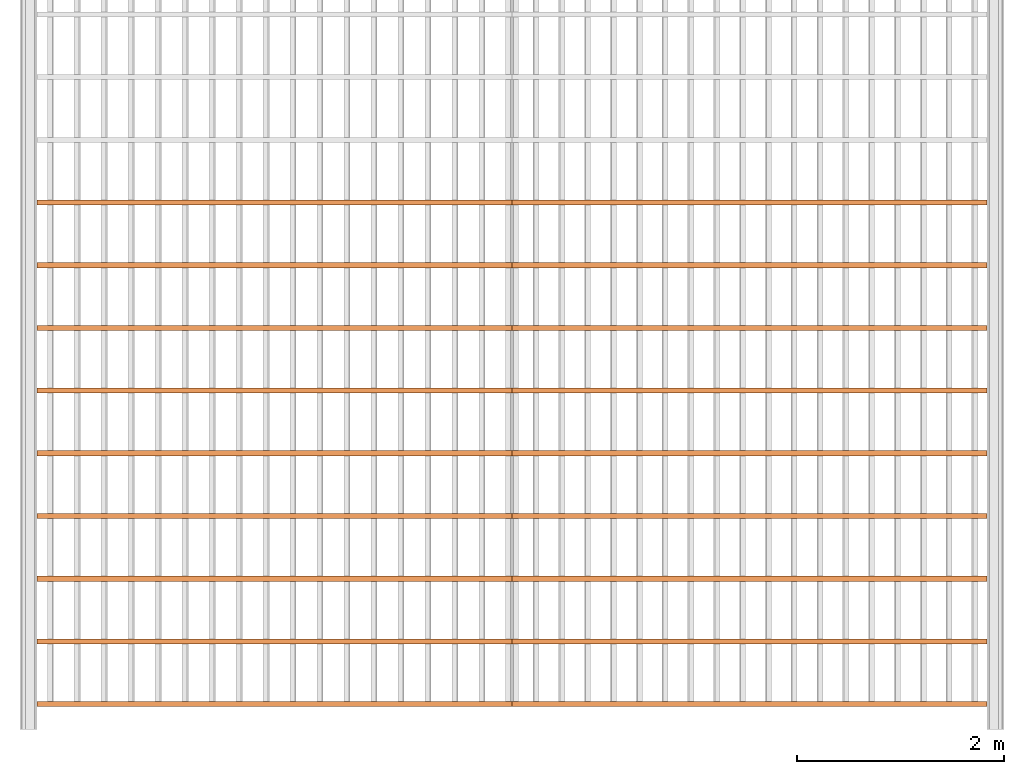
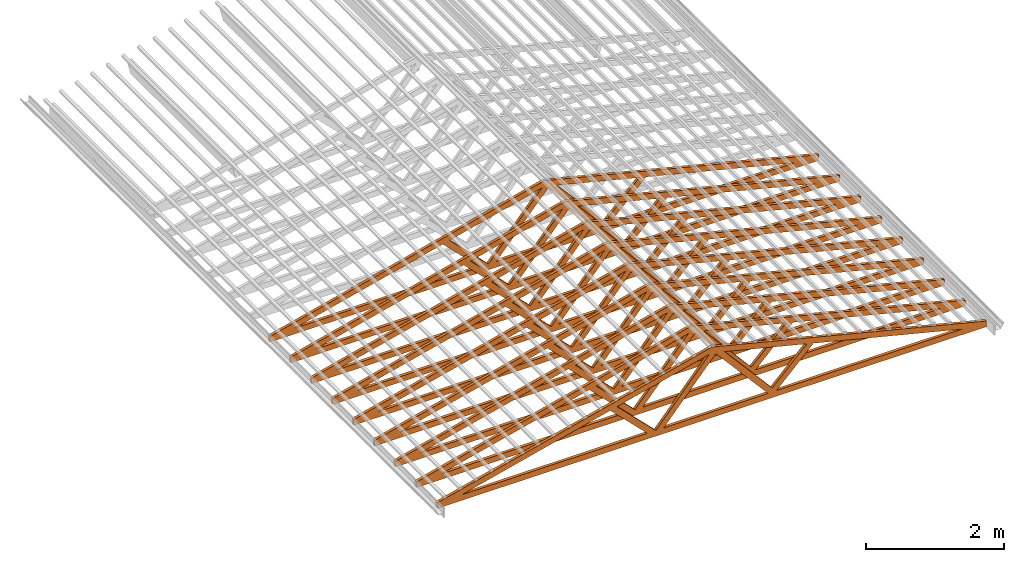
# One storey, part 2 of 4: 9 proxies.
"""IFC2X3 building model written with IfcOpenShell, lengths in metres."""

from ifc_helpers import new_model, entity, si_unit, converted_unit, derived_unit, direction, frame, origin, place, context, subcontext, project, spatial, polyline, outline, extrude, source, transform, mapped, material, type_object, type_shapes, element, save


model = new_model("IFC2X3")

# Units and contexts
model_context = context("Model", 3, precision=1e-05, world=origin(), true_north=direction((6.123031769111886e-17, 1.0)))
body_context = subcontext(model_context, "Body", "Model", "MODEL_VIEW")
ifc_project = project(units=[si_unit("LENGTHUNIT", "METRE"), si_unit("AREAUNIT", "SQUARE_METRE"), si_unit("VOLUMEUNIT", "CUBIC_METRE"), converted_unit("PLANEANGLEUNIT", "DEGREE", entity("IfcRatioMeasure", 0.017453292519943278), si_unit("PLANEANGLEUNIT", "RADIAN"), dimensions=[0, 0, 0, 0, 0, 0, 0]), si_unit("MASSUNIT", "GRAM", prefix="KILO"), derived_unit("MASSDENSITYUNIT", [(si_unit("MASSUNIT", "GRAM", prefix="KILO"), 1), (si_unit("LENGTHUNIT", "METRE"), -3)]), derived_unit("IONCONCENTRATIONUNIT", [(si_unit("MASSUNIT", "GRAM", prefix="KILO"), 1), (si_unit("LENGTHUNIT", "METRE"), -3)]), derived_unit("MOMENTOFINERTIAUNIT", [(si_unit("LENGTHUNIT", "METRE"), 4)]), si_unit("TIMEUNIT", "SECOND"), si_unit("FREQUENCYUNIT", "HERTZ"), si_unit("THERMODYNAMICTEMPERATUREUNIT", "DEGREE_CELSIUS"), derived_unit("THERMALTRANSMITTANCEUNIT", [(si_unit("MASSUNIT", "GRAM", prefix="KILO"), 1), (si_unit("THERMODYNAMICTEMPERATUREUNIT", "KELVIN"), -1), (si_unit("TIMEUNIT", "SECOND"), -3)]), derived_unit("THERMALCONDUCTANCEUNIT", [(si_unit("MASSUNIT", "GRAM", prefix="KILO"), 1), (si_unit("THERMODYNAMICTEMPERATUREUNIT", "KELVIN"), -1), (si_unit("TIMEUNIT", "SECOND"), -3), (si_unit("LENGTHUNIT", "METRE"), 1)]), derived_unit("VOLUMETRICFLOWRATEUNIT", [(si_unit("LENGTHUNIT", "METRE"), 3), (si_unit("TIMEUNIT", "SECOND"), -1)]), derived_unit("MASSFLOWRATEUNIT", [(si_unit("MASSUNIT", "GRAM", prefix="KILO"), 1), (si_unit("TIMEUNIT", "SECOND"), -1)]), derived_unit("ROTATIONALFREQUENCYUNIT", [(si_unit("TIMEUNIT", "SECOND"), -1)]), si_unit("ELECTRICCURRENTUNIT", "AMPERE"), si_unit("ELECTRICVOLTAGEUNIT", "VOLT"), si_unit("POWERUNIT", "WATT"), si_unit("FORCEUNIT", "NEWTON", prefix="KILO"), si_unit("ILLUMINANCEUNIT", "LUX"), si_unit("LUMINOUSFLUXUNIT", "LUMEN"), si_unit("LUMINOUSINTENSITYUNIT", "CANDELA"), derived_unit("USERDEFINED", [(si_unit("MASSUNIT", "GRAM", prefix="KILO"), -1), (si_unit("LENGTHUNIT", "METRE"), -2), (si_unit("TIMEUNIT", "SECOND"), 3), (si_unit("LUMINOUSFLUXUNIT", "LUMEN"), 1)]), derived_unit("USERDEFINED", [(si_unit("MASSUNIT", "GRAM", prefix="KILO"), 1), (si_unit("TIMEUNIT", "SECOND"), -3), (si_unit("LENGTHUNIT", "METRE"), 3), (si_unit("ELECTRICCURRENTUNIT", "AMPERE"), -2)]), derived_unit("SOUNDPOWERUNIT", [(si_unit("MASSUNIT", "GRAM", prefix="KILO"), 1), (si_unit("TIMEUNIT", "SECOND"), -3), (si_unit("LENGTHUNIT", "METRE"), 2)]), derived_unit("SOUNDPRESSUREUNIT", [(si_unit("MASSUNIT", "GRAM", prefix="KILO"), 1), (si_unit("LENGTHUNIT", "METRE"), -1), (si_unit("TIMEUNIT", "SECOND"), -2)]), derived_unit("LINEARVELOCITYUNIT", [(si_unit("LENGTHUNIT", "METRE"), 1), (si_unit("TIMEUNIT", "SECOND"), -1)]), si_unit("PRESSUREUNIT", "PASCAL"), derived_unit("USERDEFINED", [(si_unit("MASSUNIT", "GRAM", prefix="KILO"), 1), (si_unit("LENGTHUNIT", "METRE"), -2), (si_unit("TIMEUNIT", "SECOND"), -2)]), derived_unit("LINEARFORCEUNIT", [(si_unit("MASSUNIT", "GRAM", prefix="KILO"), 1), (si_unit("TIMEUNIT", "SECOND"), -2)]), derived_unit("PLANARFORCEUNIT", [(si_unit("MASSUNIT", "GRAM", prefix="KILO"), 1), (si_unit("LENGTHUNIT", "METRE"), -1), (si_unit("TIMEUNIT", "SECOND"), -2)]), derived_unit("SPECIFICHEATCAPACITYUNIT", [(si_unit("THERMODYNAMICTEMPERATUREUNIT", "KELVIN"), -1), (si_unit("LENGTHUNIT", "METRE"), 2), (si_unit("TIMEUNIT", "SECOND"), -2)]), derived_unit("HEATINGVALUEUNIT", [(si_unit("LENGTHUNIT", "METRE"), 2), (si_unit("TIMEUNIT", "SECOND"), -2)]), derived_unit("VAPORPERMEABILITYUNIT", [(si_unit("LENGTHUNIT", "METRE"), -1), (si_unit("TIMEUNIT", "SECOND"), 1)]), derived_unit("DYNAMICVISCOSITYUNIT", [(si_unit("MASSUNIT", "GRAM", prefix="KILO"), 1), (si_unit("TIMEUNIT", "SECOND"), -1), (si_unit("LENGTHUNIT", "METRE"), -1)]), derived_unit("THERMALEXPANSIONCOEFFICIENTUNIT", [(si_unit("THERMODYNAMICTEMPERATUREUNIT", "KELVIN"), -1)]), derived_unit("MODULUSOFELASTICITYUNIT", [(si_unit("MASSUNIT", "GRAM", prefix="KILO"), 1), (si_unit("LENGTHUNIT", "METRE"), -1), (si_unit("TIMEUNIT", "SECOND"), -2)]), derived_unit("ISOTHERMALMOISTURECAPACITYUNIT", [(si_unit("LENGTHUNIT", "METRE"), 3), (si_unit("MASSUNIT", "GRAM", prefix="KILO"), -1)]), derived_unit("MOISTUREDIFFUSIVITYUNIT", [(si_unit("TIMEUNIT", "SECOND"), -1), (si_unit("LENGTHUNIT", "METRE"), 2)])], contexts=[model_context])

# Site, building, storey
site_placement = place(None, frame((1.2553507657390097, -0.6266432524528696, -1.0397761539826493), z_axis=(0.0, 0.0, 1.0), x_axis=(-1.0, 0.0, 0.0)))
site = spatial("IfcSite", under=ifc_project, at=site_placement, Name="Default", CompositionType="ELEMENT")
building_placement = place(site_placement, origin())
building = spatial("IfcBuilding", under=site, at=building_placement, Name="MAISON D'HABITATION", CompositionType="ELEMENT")
storey_placement = place(building_placement, frame((0.0, 0.0, 3.569776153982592)))
storey = spatial("IfcBuildingStorey", under=building, at=storey_placement, Name="Niveau .....", CompositionType="ELEMENT", Elevation=3.569776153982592)

# Proxies
ifc_material = material(Name="<Unnamed>")
building_element_proxy_type_1 = type_object("IfcBuildingElementProxyType", Name="Ossature 15:Ossature 1", PredefinedType="NOTDEFINED", material=ifc_material)
shared_shape_1 = source(origin(), body_context, "Body", "SweptSolid", [
    extrude(outline(polyline([(-0.2900640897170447, -4.599999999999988), (-0.1900640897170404, -4.599999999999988), (0.960256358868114, 0.0), (-0.19006408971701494, 4.600000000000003), (-0.290064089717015, 4.600000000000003), (-0.2900640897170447, -4.599999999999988)]), holes=[polyline([(0.4313496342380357, -1.7028350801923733), (-0.1900640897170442, -4.187797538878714), (-0.19006408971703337, -1.0814213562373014), (0.4313496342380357, -1.7028350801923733)]), polyline([(-0.19006408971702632, 1.0814213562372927), (-0.19006408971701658, 4.187797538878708), (0.43134963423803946, 1.702835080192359), (-0.19006408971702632, 1.0814213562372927)]), polyline([(-0.19006408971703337, -0.9399999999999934), (-0.1900640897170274, 0.8076775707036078), (0.8183380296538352, -0.0661612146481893), (-0.19006408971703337, -0.9399999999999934)]), polyline([(-0.19006408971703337, 0.9399999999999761), (0.4596402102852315, 1.589704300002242), (0.846799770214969, 0.04149746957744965), (-0.19006408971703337, 0.9399999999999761)]), polyline([(0.4596402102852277, -1.5897043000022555), (-0.11917294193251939, -1.0108911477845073), (0.804555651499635, -0.21042687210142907), (0.4596402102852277, -1.5897043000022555)])]), frame((-0.2798669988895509, -2.813816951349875, 3.969840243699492), z_axis=(0.0, 1.0, 0.0), x_axis=(0.0, 0.0, 1.0)), (0.0, 0.0, 1.0), 0.04999999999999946),
])
type_shapes(building_element_proxy_type_1, [shared_shape_1])
proxy_1_placement = place(storey_placement, frame((0.0, 5.899999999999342, -3.569776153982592)))
element("IfcBuildingElementProxy", 1, at=proxy_1_placement, inside=storey, type_object=building_element_proxy_type_1, material=ifc_material, Name="Ossature 15:Ossature 1", ObjectType="Ossature 15:Ossature 1", context=body_context, shape_type="MappedRepresentation", body=[
    mapped(shared_shape_1, transform((0.0, 0.0, 0.0), scale=1.0)),
])
building_element_proxy_type_2 = type_object("IfcBuildingElementProxyType", Name="Ossature 2:Ossature 1", PredefinedType="NOTDEFINED", material=ifc_material)
shared_shape_2 = source(origin(), body_context, "Body", "SweptSolid", [
    extrude(outline(polyline([(-0.29006408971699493, -4.599999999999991), (-0.19006408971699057, -4.599999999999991), (0.960256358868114, 0.0), (-0.19006408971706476, 4.600000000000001), (-0.29006408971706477, 4.600000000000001), (-0.29006408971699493, -4.599999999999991)]), holes=[polyline([(0.4313496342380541, -1.7028350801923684), (-0.19006408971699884, -4.187797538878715), (-0.19006408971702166, -1.0814213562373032), (0.4313496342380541, -1.7028350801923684)]), polyline([(-0.19006408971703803, 1.0814213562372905), (-0.19006408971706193, 4.187797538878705), (0.4313496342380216, 1.7028350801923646), (-0.19006408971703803, 1.0814213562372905)]), polyline([(-0.19006408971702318, -0.9399999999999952), (-0.19006408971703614, 0.8076775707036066), (0.8183380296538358, -0.06616121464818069), (-0.19006408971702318, -0.9399999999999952)]), polyline([(-0.19006408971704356, 0.9399999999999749), (0.4596402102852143, 1.5897043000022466), (0.8467997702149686, 0.041497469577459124), (-0.19006408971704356, 0.9399999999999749)]), polyline([(0.4596402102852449, -1.5897043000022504), (-0.11917294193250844, -1.0108911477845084), (0.8045556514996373, -0.21042687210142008), (0.4596402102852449, -1.5897043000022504)])]), frame((-0.2798669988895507, -3.420959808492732, 3.969840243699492), z_axis=(0.0, 1.0, 0.0), x_axis=(0.0, 0.0, 1.0)), (0.0, 0.0, 1.0), 0.04999999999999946),
])
type_shapes(building_element_proxy_type_2, [shared_shape_2])
proxy_2_placement = place(storey_placement, frame((0.0, 5.899999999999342, -3.569776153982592)))
element("IfcBuildingElementProxy", 2, at=proxy_2_placement, inside=storey, type_object=building_element_proxy_type_2, material=ifc_material, Name="Ossature 2:Ossature 1", ObjectType="Ossature 2:Ossature 1", context=body_context, shape_type="MappedRepresentation", body=[
    mapped(shared_shape_2, transform((0.0, 0.0, 0.0), scale=1.0)),
])
building_element_proxy_type_3 = type_object("IfcBuildingElementProxyType", Name="Ossature 3:Ossature 1", PredefinedType="NOTDEFINED", material=ifc_material)
shared_shape_3 = source(origin(), body_context, "Body", "SweptSolid", [
    extrude(outline(polyline([(-0.29006408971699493, -4.599999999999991), (-0.19006408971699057, -4.599999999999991), (0.960256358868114, 0.0), (-0.19006408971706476, 4.600000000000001), (-0.29006408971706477, 4.600000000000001), (-0.29006408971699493, -4.599999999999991)]), holes=[polyline([(0.4313496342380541, -1.7028350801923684), (-0.19006408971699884, -4.187797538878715), (-0.19006408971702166, -1.0814213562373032), (0.4313496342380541, -1.7028350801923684)]), polyline([(-0.19006408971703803, 1.0814213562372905), (-0.19006408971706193, 4.187797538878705), (0.4313496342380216, 1.7028350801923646), (-0.19006408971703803, 1.0814213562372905)]), polyline([(-0.19006408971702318, -0.9399999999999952), (-0.19006408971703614, 0.8076775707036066), (0.8183380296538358, -0.06616121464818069), (-0.19006408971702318, -0.9399999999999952)]), polyline([(-0.19006408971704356, 0.9399999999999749), (0.4596402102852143, 1.5897043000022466), (0.8467997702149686, 0.041497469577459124), (-0.19006408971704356, 0.9399999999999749)]), polyline([(0.4596402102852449, -1.5897043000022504), (-0.11917294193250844, -1.0108911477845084), (0.8045556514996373, -0.21042687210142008), (0.4596402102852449, -1.5897043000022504)])]), frame((-0.2798669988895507, -4.028102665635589, 3.969840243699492), z_axis=(0.0, 1.0, 0.0), x_axis=(0.0, 0.0, 1.0)), (0.0, 0.0, 1.0), 0.04999999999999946),
])
type_shapes(building_element_proxy_type_3, [shared_shape_3])
proxy_3_placement = place(storey_placement, frame((0.0, 5.899999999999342, -3.569776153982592)))
element("IfcBuildingElementProxy", 3, at=proxy_3_placement, inside=storey, type_object=building_element_proxy_type_3, material=ifc_material, Name="Ossature 3:Ossature 1", ObjectType="Ossature 3:Ossature 1", context=body_context, shape_type="MappedRepresentation", body=[
    mapped(shared_shape_3, transform((0.0, 0.0, 0.0), scale=1.0)),
])
building_element_proxy_type_4 = type_object("IfcBuildingElementProxyType", Name="Ossature 5:Ossature 1", PredefinedType="NOTDEFINED", material=ifc_material)
shared_shape_4 = source(origin(), body_context, "Body", "SweptSolid", [
    extrude(outline(polyline([(-0.19457787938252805, -4.599999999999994), (-0.09457787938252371, -4.599999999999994), (-0.029559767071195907, -4.340000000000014), (-0.014577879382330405, -4.280089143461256), (1.0557425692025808, 0.0), (-0.014577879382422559, 4.280089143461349), (-0.029559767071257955, 4.339999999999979), (-0.09457787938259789, 4.599999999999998), (-0.19457787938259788, 4.599999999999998), (-0.19457787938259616, 4.3399999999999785), (-0.19457787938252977, -4.340000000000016), (-0.19457787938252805, -4.599999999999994)]), holes=[polyline([(0.5551264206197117, -1.5897043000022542), (-0.014577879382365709, -1.0200000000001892), (-0.023686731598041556, -1.0108911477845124), (-0.014577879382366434, -1.0029978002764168), (0.9000418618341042, -0.21042687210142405), (0.5551264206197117, -1.5897043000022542)]), polyline([(0.526835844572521, -1.7028350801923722), (-0.014577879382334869, -3.867886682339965), (-0.09457787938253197, -4.187797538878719), (-0.09457787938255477, -1.0814213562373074), (-0.014577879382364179, -1.161421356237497), (0.526835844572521, -1.7028350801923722)]), polyline([(-0.09457787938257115, 1.0814213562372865), (-0.09457787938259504, 4.187797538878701), (-0.014577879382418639, 3.8678866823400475), (0.5268358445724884, 1.7028350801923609), (-0.01457787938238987, 1.1614213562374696), (-0.09457787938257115, 1.0814213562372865)]), polyline([(-0.0945778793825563, -0.9399999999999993), (-0.09457787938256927, 0.8076775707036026), (-0.014577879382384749, 0.7383529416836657), (0.9138242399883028, -0.06616121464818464), (-0.014577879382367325, -0.8706753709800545), (-0.0945778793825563, -0.9399999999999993)]), polyline([(-0.09457787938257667, 0.9399999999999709), (-0.014577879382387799, 1.0200000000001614), (0.5551264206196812, 1.5897043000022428), (0.9422859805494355, 0.041497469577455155), (-0.01457787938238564, 0.8706753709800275), (-0.09457787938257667, 0.9399999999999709)])]), frame((-0.2798669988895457, -4.635245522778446, 3.8743540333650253), z_axis=(0.0, 1.0, 0.0), x_axis=(0.0, 0.0, 1.0)), (0.0, 0.0, 1.0), 0.04999999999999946),
])
type_shapes(building_element_proxy_type_4, [shared_shape_4])
proxy_4_placement = place(storey_placement, frame((0.0, 5.899999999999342, -3.569776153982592)))
element("IfcBuildingElementProxy", 4, at=proxy_4_placement, inside=storey, type_object=building_element_proxy_type_4, material=ifc_material, Name="Ossature 5:Ossature 1", ObjectType="Ossature 5:Ossature 1", context=body_context, shape_type="MappedRepresentation", body=[
    mapped(shared_shape_4, transform((0.0, 0.0, 0.0), scale=1.0)),
])
building_element_proxy_type_5 = type_object("IfcBuildingElementProxyType", Name="Ossature 6:Ossature 1", PredefinedType="NOTDEFINED", material=ifc_material)
shared_shape_5 = source(origin(), body_context, "Body", "SweptSolid", [
    extrude(outline(polyline([(-0.29006408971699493, -4.599999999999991), (-0.19006408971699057, -4.599999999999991), (0.960256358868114, 0.0), (-0.19006408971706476, 4.600000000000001), (-0.29006408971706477, 4.600000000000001), (-0.29006408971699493, -4.599999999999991)]), holes=[polyline([(0.4313496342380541, -1.7028350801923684), (-0.19006408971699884, -4.187797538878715), (-0.19006408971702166, -1.0814213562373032), (0.4313496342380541, -1.7028350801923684)]), polyline([(-0.19006408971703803, 1.0814213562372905), (-0.19006408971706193, 4.187797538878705), (0.4313496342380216, 1.7028350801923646), (-0.19006408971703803, 1.0814213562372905)]), polyline([(-0.19006408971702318, -0.9399999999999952), (-0.19006408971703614, 0.8076775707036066), (0.8183380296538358, -0.06616121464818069), (-0.19006408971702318, -0.9399999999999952)]), polyline([(-0.19006408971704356, 0.9399999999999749), (0.4596402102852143, 1.5897043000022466), (0.8467997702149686, 0.041497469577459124), (-0.19006408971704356, 0.9399999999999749)]), polyline([(0.4596402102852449, -1.5897043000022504), (-0.11917294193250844, -1.0108911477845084), (0.8045556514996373, -0.21042687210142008), (0.4596402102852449, -1.5897043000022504)])]), frame((-0.2798669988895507, -5.242388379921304, 3.969840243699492), z_axis=(0.0, 1.0, 0.0), x_axis=(0.0, 0.0, 1.0)), (0.0, 0.0, 1.0), 0.04999999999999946),
])
type_shapes(building_element_proxy_type_5, [shared_shape_5])
proxy_5_placement = place(storey_placement, frame((0.0, 5.899999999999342, -3.569776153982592)))
element("IfcBuildingElementProxy", 5, at=proxy_5_placement, inside=storey, type_object=building_element_proxy_type_5, material=ifc_material, Name="Ossature 6:Ossature 1", ObjectType="Ossature 6:Ossature 1", context=body_context, shape_type="MappedRepresentation", body=[
    mapped(shared_shape_5, transform((0.0, 0.0, 0.0), scale=1.0)),
])
building_element_proxy_type_6 = type_object("IfcBuildingElementProxyType", Name="Ossature 7:Ossature 1", PredefinedType="NOTDEFINED", material=ifc_material)
shared_shape_6 = source(origin(), body_context, "Body", "SweptSolid", [
    extrude(outline(polyline([(-0.29006408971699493, -4.599999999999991), (-0.19006408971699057, -4.599999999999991), (0.960256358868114, 0.0), (-0.19006408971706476, 4.600000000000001), (-0.29006408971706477, 4.600000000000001), (-0.29006408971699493, -4.599999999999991)]), holes=[polyline([(0.4313496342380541, -1.7028350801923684), (-0.19006408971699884, -4.187797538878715), (-0.19006408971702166, -1.0814213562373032), (0.4313496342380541, -1.7028350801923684)]), polyline([(-0.19006408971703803, 1.0814213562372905), (-0.19006408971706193, 4.187797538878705), (0.4313496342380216, 1.7028350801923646), (-0.19006408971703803, 1.0814213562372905)]), polyline([(-0.19006408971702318, -0.9399999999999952), (-0.19006408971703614, 0.8076775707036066), (0.8183380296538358, -0.06616121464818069), (-0.19006408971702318, -0.9399999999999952)]), polyline([(-0.19006408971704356, 0.9399999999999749), (0.4596402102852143, 1.5897043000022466), (0.8467997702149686, 0.041497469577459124), (-0.19006408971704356, 0.9399999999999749)]), polyline([(0.4596402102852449, -1.5897043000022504), (-0.11917294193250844, -1.0108911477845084), (0.8045556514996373, -0.21042687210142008), (0.4596402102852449, -1.5897043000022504)])]), frame((-0.2798669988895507, -5.849531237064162, 3.969840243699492), z_axis=(0.0, 1.0, 0.0), x_axis=(0.0, 0.0, 1.0)), (0.0, 0.0, 1.0), 0.04999999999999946),
])
type_shapes(building_element_proxy_type_6, [shared_shape_6])
proxy_6_placement = place(storey_placement, frame((0.0, 5.899999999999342, -3.569776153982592)))
element("IfcBuildingElementProxy", 6, at=proxy_6_placement, inside=storey, type_object=building_element_proxy_type_6, material=ifc_material, Name="Ossature 7:Ossature 1", ObjectType="Ossature 7:Ossature 1", context=body_context, shape_type="MappedRepresentation", body=[
    mapped(shared_shape_6, transform((0.0, 0.0, 0.0), scale=1.0)),
])
building_element_proxy_type_7 = type_object("IfcBuildingElementProxyType", Name="Ossature 8:Ossature 1", PredefinedType="NOTDEFINED", material=ifc_material)
shared_shape_7 = source(origin(), body_context, "Body", "SweptSolid", [
    extrude(outline(polyline([(-0.29006408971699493, -4.599999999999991), (-0.19006408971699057, -4.599999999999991), (0.960256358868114, 0.0), (-0.19006408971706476, 4.600000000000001), (-0.29006408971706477, 4.600000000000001), (-0.29006408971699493, -4.599999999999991)]), holes=[polyline([(0.4313496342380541, -1.7028350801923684), (-0.19006408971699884, -4.187797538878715), (-0.19006408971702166, -1.0814213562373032), (0.4313496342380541, -1.7028350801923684)]), polyline([(-0.19006408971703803, 1.0814213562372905), (-0.19006408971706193, 4.187797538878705), (0.4313496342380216, 1.7028350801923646), (-0.19006408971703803, 1.0814213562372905)]), polyline([(-0.19006408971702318, -0.9399999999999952), (-0.19006408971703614, 0.8076775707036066), (0.8183380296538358, -0.06616121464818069), (-0.19006408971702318, -0.9399999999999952)]), polyline([(-0.19006408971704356, 0.9399999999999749), (0.4596402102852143, 1.5897043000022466), (0.8467997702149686, 0.041497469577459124), (-0.19006408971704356, 0.9399999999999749)]), polyline([(0.4596402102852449, -1.5897043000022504), (-0.11917294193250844, -1.0108911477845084), (0.8045556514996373, -0.21042687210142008), (0.4596402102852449, -1.5897043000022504)])]), frame((-0.2798669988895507, -6.4566740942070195, 3.969840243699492), z_axis=(0.0, 1.0, 0.0), x_axis=(0.0, 0.0, 1.0)), (0.0, 0.0, 1.0), 0.04999999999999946),
])
type_shapes(building_element_proxy_type_7, [shared_shape_7])
proxy_7_placement = place(storey_placement, frame((0.0, 5.899999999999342, -3.569776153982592)))
element("IfcBuildingElementProxy", 7, at=proxy_7_placement, inside=storey, type_object=building_element_proxy_type_7, material=ifc_material, Name="Ossature 8:Ossature 1", ObjectType="Ossature 8:Ossature 1", context=body_context, shape_type="MappedRepresentation", body=[
    mapped(shared_shape_7, transform((0.0, 0.0, 0.0), scale=1.0)),
])
building_element_proxy_type_8 = type_object("IfcBuildingElementProxyType", Name="Ossature 9:Ossature 1", PredefinedType="NOTDEFINED", material=ifc_material)
shared_shape_8 = source(origin(), body_context, "Body", "SweptSolid", [
    extrude(outline(polyline([(-0.29006408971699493, -4.599999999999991), (-0.19006408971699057, -4.599999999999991), (0.960256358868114, 0.0), (-0.19006408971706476, 4.600000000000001), (-0.29006408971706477, 4.600000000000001), (-0.29006408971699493, -4.599999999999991)]), holes=[polyline([(0.4313496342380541, -1.7028350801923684), (-0.19006408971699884, -4.187797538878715), (-0.19006408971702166, -1.0814213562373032), (0.4313496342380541, -1.7028350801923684)]), polyline([(-0.19006408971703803, 1.0814213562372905), (-0.19006408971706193, 4.187797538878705), (0.4313496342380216, 1.7028350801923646), (-0.19006408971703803, 1.0814213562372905)]), polyline([(-0.19006408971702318, -0.9399999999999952), (-0.19006408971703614, 0.8076775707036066), (0.8183380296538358, -0.06616121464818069), (-0.19006408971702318, -0.9399999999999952)]), polyline([(-0.19006408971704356, 0.9399999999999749), (0.4596402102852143, 1.5897043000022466), (0.8467997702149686, 0.041497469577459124), (-0.19006408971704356, 0.9399999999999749)]), polyline([(0.4596402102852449, -1.5897043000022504), (-0.11917294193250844, -1.0108911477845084), (0.8045556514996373, -0.21042687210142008), (0.4596402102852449, -1.5897043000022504)])]), frame((-0.2798669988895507, -7.063816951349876, 3.969840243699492), z_axis=(0.0, 1.0, 0.0), x_axis=(0.0, 0.0, 1.0)), (0.0, 0.0, 1.0), 0.04999999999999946),
])
type_shapes(building_element_proxy_type_8, [shared_shape_8])
proxy_8_placement = place(storey_placement, frame((0.0, 5.899999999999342, -3.569776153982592)))
element("IfcBuildingElementProxy", 8, at=proxy_8_placement, inside=storey, type_object=building_element_proxy_type_8, material=ifc_material, Name="Ossature 9:Ossature 1", ObjectType="Ossature 9:Ossature 1", context=body_context, shape_type="MappedRepresentation", body=[
    mapped(shared_shape_8, transform((0.0, 0.0, 0.0), scale=1.0)),
])
building_element_proxy_type_9 = type_object("IfcBuildingElementProxyType", Name="Ossature 10:Ossature 1", PredefinedType="NOTDEFINED", material=ifc_material)
shared_shape_9 = source(origin(), body_context, "Body", "SweptSolid", [
    extrude(outline(polyline([(-0.29006408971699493, -4.599999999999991), (-0.19006408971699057, -4.599999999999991), (0.960256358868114, 0.0), (-0.19006408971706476, 4.600000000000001), (-0.29006408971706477, 4.600000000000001), (-0.29006408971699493, -4.599999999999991)]), holes=[polyline([(0.4313496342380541, -1.7028350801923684), (-0.19006408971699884, -4.187797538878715), (-0.19006408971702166, -1.0814213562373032), (0.4313496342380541, -1.7028350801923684)]), polyline([(-0.19006408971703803, 1.0814213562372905), (-0.19006408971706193, 4.187797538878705), (0.4313496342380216, 1.7028350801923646), (-0.19006408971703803, 1.0814213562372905)]), polyline([(-0.19006408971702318, -0.9399999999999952), (-0.19006408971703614, 0.8076775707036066), (0.8183380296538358, -0.06616121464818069), (-0.19006408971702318, -0.9399999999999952)]), polyline([(-0.19006408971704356, 0.9399999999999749), (0.4596402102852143, 1.5897043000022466), (0.8467997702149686, 0.041497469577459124), (-0.19006408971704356, 0.9399999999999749)]), polyline([(0.4596402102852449, -1.5897043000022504), (-0.11917294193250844, -1.0108911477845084), (0.8045556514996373, -0.21042687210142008), (0.4596402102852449, -1.5897043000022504)])]), frame((-0.2798669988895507, -7.670959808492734, 3.969840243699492), z_axis=(0.0, 1.0, 0.0), x_axis=(0.0, 0.0, 1.0)), (0.0, 0.0, 1.0), 0.04999999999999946),
])
type_shapes(building_element_proxy_type_9, [shared_shape_9])
proxy_9_placement = place(storey_placement, frame((0.0, 5.899999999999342, -3.569776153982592)))
element("IfcBuildingElementProxy", 9, at=proxy_9_placement, inside=storey, type_object=building_element_proxy_type_9, material=ifc_material, Name="Ossature 10:Ossature 1", ObjectType="Ossature 10:Ossature 1", context=body_context, shape_type="MappedRepresentation", body=[
    mapped(shared_shape_9, transform((0.0, 0.0, 0.0), scale=1.0)),
])

save(model, "model.ifc")
